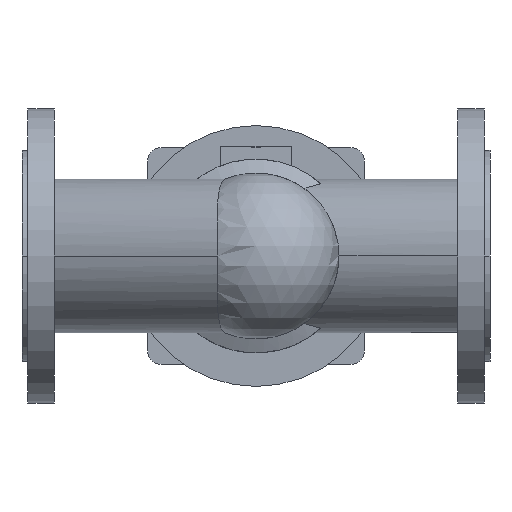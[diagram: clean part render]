
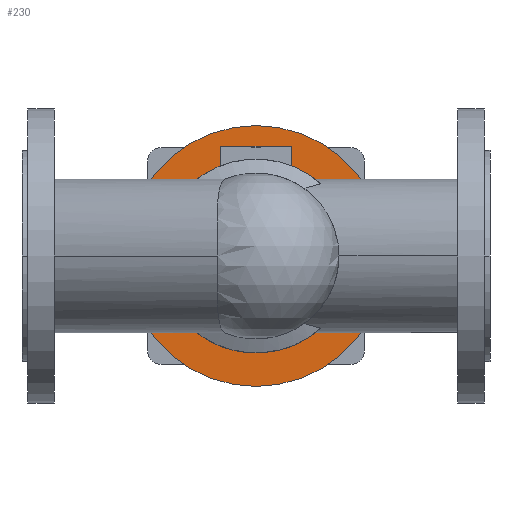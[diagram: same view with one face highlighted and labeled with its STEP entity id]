
A CAD part, front view. The second image highlights one B-rep face of the part: STEP entity #230.
In plain terms, the highlighted planar face has unit normal (0, -1, 0).
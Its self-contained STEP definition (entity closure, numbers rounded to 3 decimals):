
#230 = ADVANCED_FACE( '', ( #552, #553 ), #554, .T. );
#552 = FACE_OUTER_BOUND( '', #942, .T. );
#553 = FACE_BOUND( '', #943, .T. );
#554 = PLANE( '', #944 );
#942 = EDGE_LOOP( '', ( #1925, #1926 ) );
#943 = EDGE_LOOP( '', ( #1927, #1928 ) );
#944 = AXIS2_PLACEMENT_3D( '', #1929, #1930, #1931 );
#1925 = ORIENTED_EDGE( '', *, *, #2520, .T. );
#1926 = ORIENTED_EDGE( '', *, *, #2516, .T. );
#1927 = ORIENTED_EDGE( '', *, *, #2387, .F. );
#1928 = ORIENTED_EDGE( '', *, *, #2651, .F. );
#1929 = CARTESIAN_POINT( '', ( 89.5, 89.3, 0. ) );
#1930 = DIRECTION( '', ( 0., -1., 0. ) );
#1931 = DIRECTION( '', ( -1., 0., 0. ) );
#2387 = EDGE_CURVE( '', #2798, #2801, #2802, .T. );
#2516 = EDGE_CURVE( '', #3055, #3052, #3056, .T. );
#2520 = EDGE_CURVE( '', #3052, #3055, #3061, .T. );
#2651 = EDGE_CURVE( '', #2801, #2798, #3239, .T. );
#2798 = VERTEX_POINT( '', #3551 );
#2801 = VERTEX_POINT( '', #3555 );
#2802 = CIRCLE( '', #3556, 72.5 );
#3052 = VERTEX_POINT( '', #4063 );
#3055 = VERTEX_POINT( '', #4067 );
#3056 = CIRCLE( '', #4068, 97.5 );
#3061 = CIRCLE( '', #4074, 97.5 );
#3239 = CIRCLE( '', #4574, 72.5 );
#3551 = CARTESIAN_POINT( '', ( 102.5, 89.3, 0. ) );
#3555 = CARTESIAN_POINT( '', ( 247.5, 89.3, 0. ) );
#3556 = AXIS2_PLACEMENT_3D( '', #4884, #4885, #4886 );
#4063 = CARTESIAN_POINT( '', ( 272.5, 89.3, 0. ) );
#4067 = CARTESIAN_POINT( '', ( 77.5, 89.3, 0. ) );
#4068 = AXIS2_PLACEMENT_3D( '', #5132, #5133, #5134 );
#4074 = AXIS2_PLACEMENT_3D( '', #5142, #5143, #5144 );
#4574 = AXIS2_PLACEMENT_3D( '', #5414, #5415, #5416 );
#4884 = CARTESIAN_POINT( '', ( 175., 89.3, 0. ) );
#4885 = DIRECTION( '', ( 0., -1., 0. ) );
#4886 = DIRECTION( '', ( -1., 0., 0. ) );
#5132 = CARTESIAN_POINT( '', ( 175., 89.3, 0. ) );
#5133 = DIRECTION( '', ( 0., -1., 0. ) );
#5134 = DIRECTION( '', ( 1., 0., 0. ) );
#5142 = CARTESIAN_POINT( '', ( 175., 89.3, 0. ) );
#5143 = DIRECTION( '', ( 0., -1., 0. ) );
#5144 = DIRECTION( '', ( 1., 0., 0. ) );
#5414 = CARTESIAN_POINT( '', ( 175., 89.3, 0. ) );
#5415 = DIRECTION( '', ( 0., -1., 0. ) );
#5416 = DIRECTION( '', ( -1., 0., 0. ) );
